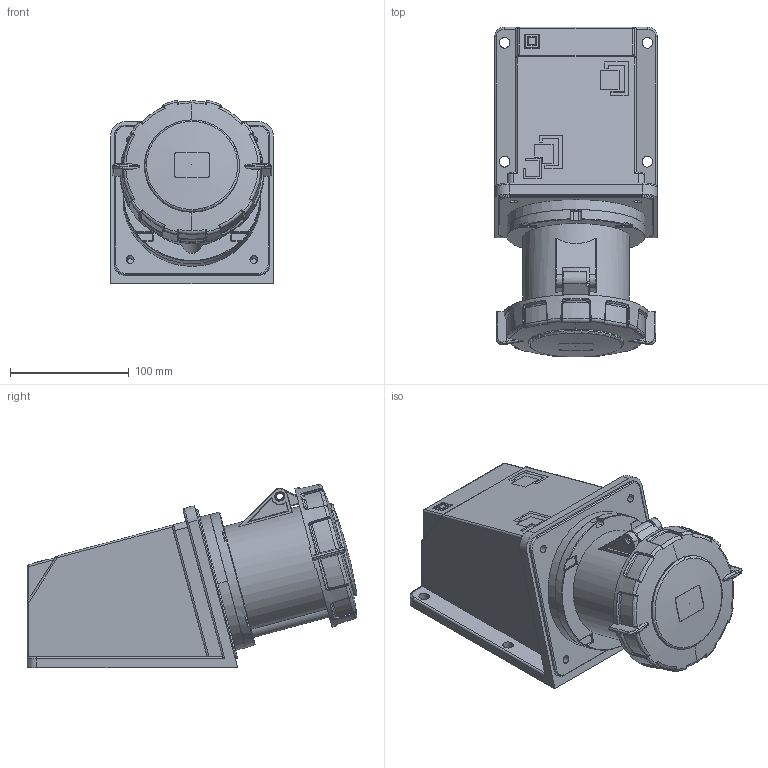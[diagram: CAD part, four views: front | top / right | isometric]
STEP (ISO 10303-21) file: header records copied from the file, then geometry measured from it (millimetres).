
FILE_DESCRIPTION(('FreeCAD Model'),'2;1');
FILE_NAME('Open CASCADE Shape Model','2026-02-04T08:15:21',(''),(''), 'Open CASCADE STEP processor 7.8','FreeCAD','Unknown');
FILE_SCHEMA(('AUTOMOTIVE_DESIGN { 1 0 10303 214 1 1 1 1 }'));
Length unit declared in the file: millimetre
Products named in the file (8): TL3S125653; Tampa parte 1; Tampa parte 2; Corpo tomada; Base tomada interna; Terminais; Estrutura corpo; Base tomada externa
Assembly tree (7 placements, depth 2):
  TL3S125653
    Tampa parte 1
    Tampa parte 2
    Corpo tomada
    Base tomada interna
    Terminais
    Estrutura corpo
    Base tomada externa
Bounding box: 137 x 277.27 x 154.16 mm (x, y, z)
Volume: 1495066.3 mm3; surface area: 437501.3 mm2
Topology: 7 solids, 7 shells, 1700 faces, 4434 edges, 2813 vertices
Faces by surface type: plane 737, cylinder 414, bspline 266, torus 141, cone 75, extrusion 45, sphere 22
Full cylindrical faces by diameter (mm): 6.6 x1, 78.4 x1, 79.3 x1, 80 x1, 94.5 x1, 111 x1
Entity records: 70662 total; most frequent: CARTESIAN_POINT 30544, ORIENTED_EDGE 8864, DIRECTION 7610, EDGE_CURVE 4432, VERTEX_POINT 2813, AXIS2_PLACEMENT_3D 2722, VECTOR 2166, LINE 2121
